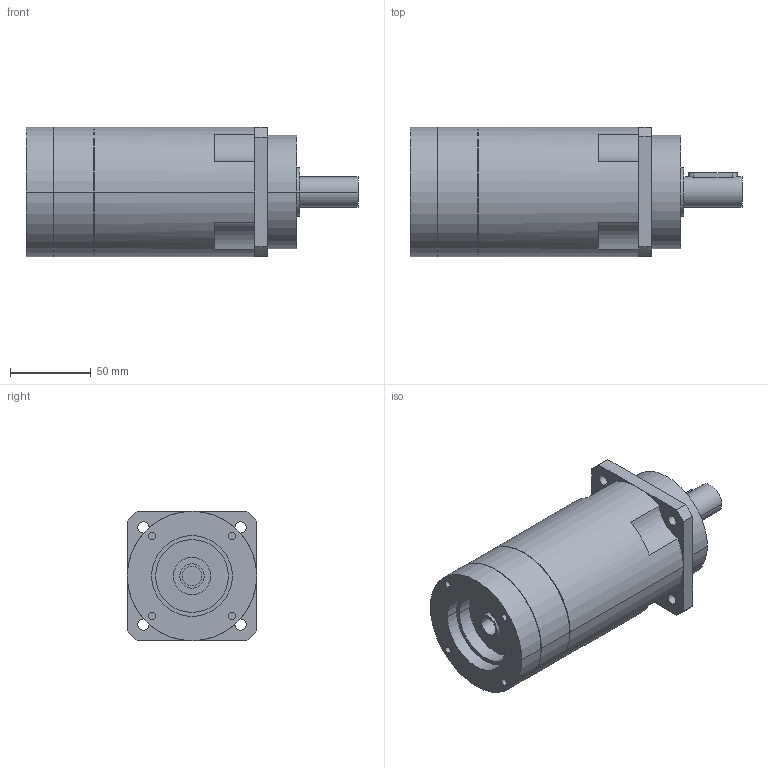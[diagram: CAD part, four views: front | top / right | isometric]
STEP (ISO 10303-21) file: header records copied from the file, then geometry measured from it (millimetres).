
FILE_DESCRIPTION(('CoCreate Modeling STEP Export'),'2;1');
FILE_NAME('GPR100_ig-48-64-80-100-120-144-180-216_19_B5_12_P15.stp','2014-08-26T11:54:01',(''),(''),'CoCreate Modeling STEP processor for AP214 (Solid Model)','CoCreate Modeling 16.00C 25-Feb-2009 (C) Parametric Technology GmbH','');
FILE_SCHEMA(('AUTOMOTIVE_DESIGN { 1 0 10303 214 1 1 1 1 }'));
Length unit declared in the file: millimetre
Products named in the file (2): GPR100_ig-48-64-80-100-120-144-180-216_19_B5_12_P15
Assembly tree (1 placements, depth 2):
  GPR100_ig-48-64-80-100-120-144-180-216_19_B5_12_P15
    GPR100_ig-48-64-80-100-120-144-180-216_19_B5_12_P15
Bounding box: 205.4 x 80 x 80 mm (x, y, z)
Volume: 799818 mm3; surface area: 63690.2 mm2
Topology: 1 solids, 1 shells, 99 faces, 256 edges, 176 vertices
Faces by surface type: cylinder 58, plane 35, cone 6
Entity records: 2674 total; most frequent: ORIENTED_EDGE 508, CARTESIAN_POINT 478, DIRECTION 386, EDGE_CURVE 254, VERTEX_POINT 176, AXIS2_PLACEMENT_3D 148, EDGE_LOOP 126, FACE_OUTER_BOUND 99
